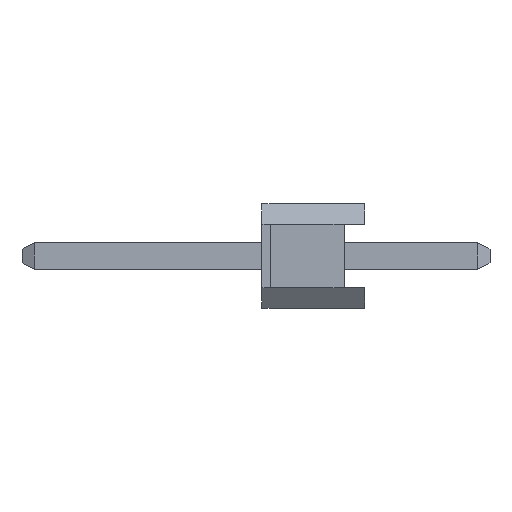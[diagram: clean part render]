
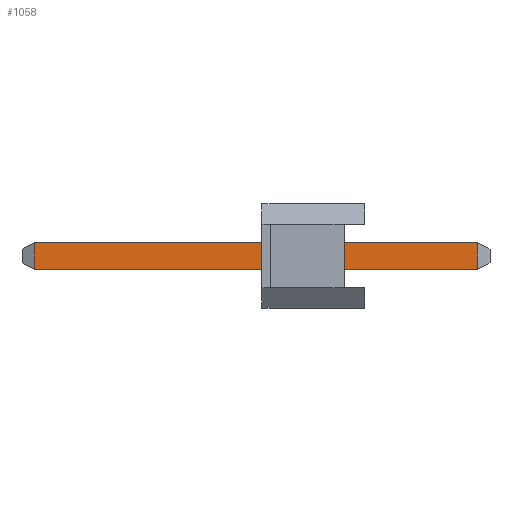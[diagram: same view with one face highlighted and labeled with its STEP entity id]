
A CAD part, left-side view. The second image highlights one B-rep face of the part: STEP entity #1058.
In plain terms, the highlighted planar face has unit normal (-1, 0, 0).
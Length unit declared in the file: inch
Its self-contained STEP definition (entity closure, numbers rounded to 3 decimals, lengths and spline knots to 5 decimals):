
#38 = DIRECTION ( 'NONE',  ( 0., 0., -1. ) ) ;
#95 = DIRECTION ( 'NONE',  ( -1., 0., 0. ) ) ;
#130 = PLANE ( 'NONE',  #975 ) ;
#318 = EDGE_LOOP ( 'NONE', ( #2263, #4111, #2377, #3278 ) ) ;
#476 = VERTEX_POINT ( 'NONE', #1210 ) ;
#629 = DIRECTION ( 'NONE',  ( 0., -1., 0. ) ) ;
#688 = VERTEX_POINT ( 'NONE', #1432 ) ;
#779 = CARTESIAN_POINT ( 'NONE',  ( 12.69797, 14.9808, -0.07997 ) ) ;
#975 = AXIS2_PLACEMENT_3D ( 'NONE', #2973, #95, #629 ) ;
#1019 = VERTEX_POINT ( 'NONE', #4209 ) ;
#1058 = ADVANCED_FACE ( 'NONE', ( #2739 ), #130, .T. ) ;
#1182 = CARTESIAN_POINT ( 'NONE',  ( 12.69797, 14.9556, -0.07997 ) ) ;
#1210 = CARTESIAN_POINT ( 'NONE',  ( 12.69797, 14.9808, -0.28661 ) ) ;
#1432 = CARTESIAN_POINT ( 'NONE',  ( 12.69797, 14.9556, 0.13819 ) ) ;
#1643 = EDGE_CURVE ( 'NONE', #476, #3558, #4429, .T. ) ;
#1861 = CARTESIAN_POINT ( 'NONE',  ( 12.69797, 14.9556, -0.28661 ) ) ;
#1954 = EDGE_CURVE ( 'NONE', #688, #1019, #3105, .T. ) ;
#2189 = VECTOR ( 'NONE', #3038, 39.37008 ) ;
#2263 = ORIENTED_EDGE ( 'NONE', *, *, #2591, .T. ) ;
#2377 = ORIENTED_EDGE ( 'NONE', *, *, #4337, .T. ) ;
#2464 = LINE ( 'NONE', #1182, #3253 ) ;
#2515 = VECTOR ( 'NONE', #38, 39.37008 ) ;
#2553 = DIRECTION ( 'NONE',  ( 0., 0., 1. ) ) ;
#2591 = EDGE_CURVE ( 'NONE', #3558, #688, #2464, .T. ) ;
#2739 = FACE_OUTER_BOUND ( 'NONE', #318, .T. ) ;
#2973 = CARTESIAN_POINT ( 'NONE',  ( 12.69797, 14.9556, -0.07997 ) ) ;
#3038 = DIRECTION ( 'NONE',  ( 0., 1., 0. ) ) ;
#3105 = LINE ( 'NONE', #3424, #2189 ) ;
#3253 = VECTOR ( 'NONE', #2553, 39.37008 ) ;
#3278 = ORIENTED_EDGE ( 'NONE', *, *, #1643, .T. ) ;
#3416 = LINE ( 'NONE', #779, #2515 ) ;
#3424 = CARTESIAN_POINT ( 'NONE',  ( 12.69797, 14.9556, 0.13819 ) ) ;
#3483 = VECTOR ( 'NONE', #4128, 39.37008 ) ;
#3558 = VERTEX_POINT ( 'NONE', #1861 ) ;
#4111 = ORIENTED_EDGE ( 'NONE', *, *, #1954, .T. ) ;
#4128 = DIRECTION ( 'NONE',  ( 0., -1., 0. ) ) ;
#4186 = CARTESIAN_POINT ( 'NONE',  ( 12.69797, 14.9556, -0.28661 ) ) ;
#4209 = CARTESIAN_POINT ( 'NONE',  ( 12.69797, 14.9808, 0.13819 ) ) ;
#4337 = EDGE_CURVE ( 'NONE', #1019, #476, #3416, .T. ) ;
#4429 = LINE ( 'NONE', #4186, #3483 ) ;
